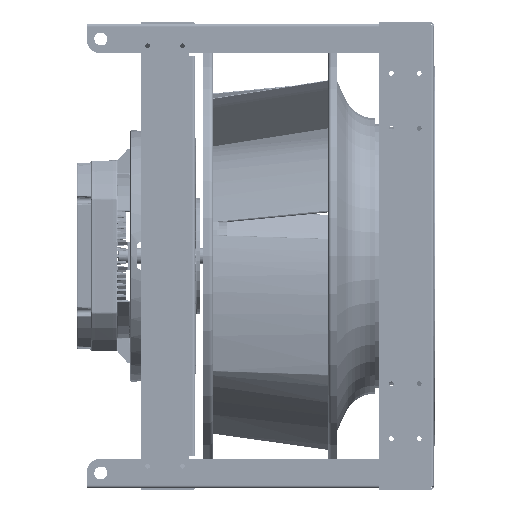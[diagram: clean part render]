
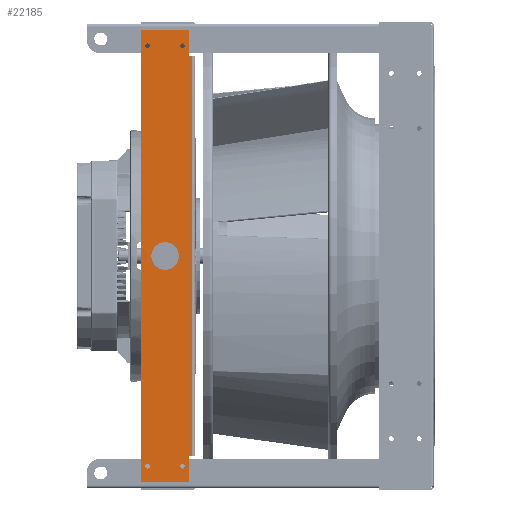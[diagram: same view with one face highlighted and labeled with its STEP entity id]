
A CAD part, left-side view. The second image highlights one B-rep face of the part: STEP entity #22185.
In plain terms, the highlighted planar face has unit normal (-1, 0, 0) as drawn and (0, 0, 1) by its records, which use the part's own axes.
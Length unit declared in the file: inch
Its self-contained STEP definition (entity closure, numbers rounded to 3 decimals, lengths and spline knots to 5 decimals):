
#691 = DIRECTION ( 'NONE',  ( 1., 0., 0. ) ) ;
#7400 = DIRECTION ( 'NONE',  ( -1., 0., 0. ) ) ;
#8733 = ORIENTED_EDGE ( 'NONE', *, *, #437535, .T. ) ;
#11995 = VERTEX_POINT ( 'NONE', #62626 ) ;
#14254 = ORIENTED_EDGE ( 'NONE', *, *, #176548, .T. ) ;
#14866 = VERTEX_POINT ( 'NONE', #392478 ) ;
#19085 = EDGE_LOOP ( 'NONE', ( #19889 ) ) ;
#19889 = ORIENTED_EDGE ( 'NONE', *, *, #295865, .F. ) ;
#20760 = EDGE_LOOP ( 'NONE', ( #362341 ) ) ;
#22185 = ADVANCED_FACE ( 'NONE', ( #128531, #301586, #130748, #90357, #94783, #267897 ), #56625, .F. ) ;
#23667 = DIRECTION ( 'NONE',  ( 1., 0., 0. ) ) ;
#25438 = ORIENTED_EDGE ( 'NONE', *, *, #311049, .T. ) ;
#36710 = DIRECTION ( 'NONE',  ( 0., 0., 1. ) ) ;
#47473 = VERTEX_POINT ( 'NONE', #387441 ) ;
#56625 = PLANE ( 'NONE',  #79024 ) ;
#62626 = CARTESIAN_POINT ( 'NONE',  ( 14.545, 1.77, 0.135 ) ) ;
#68829 = EDGE_CURVE ( 'NONE', #187546, #302272, #104119, .T. ) ;
#69198 = VECTOR ( 'NONE', #382490, 39.37008 ) ;
#71665 = CIRCLE ( 'NONE', #122085, 1. ) ;
#78075 = VECTOR ( 'NONE', #111496, 39.37008 ) ;
#79024 = AXIS2_PLACEMENT_3D ( 'NONE', #369010, #330811, #402754 ) ;
#80068 = DIRECTION ( 'NONE',  ( 0., 0., 1. ) ) ;
#86774 = EDGE_CURVE ( 'NONE', #161976, #161976, #71665, .T. ) ;
#90085 = CARTESIAN_POINT ( 'NONE',  ( 1., 0., 0.135 ) ) ;
#90357 = FACE_BOUND ( 'NONE', #20760, .T. ) ;
#94783 = FACE_BOUND ( 'NONE', #19085, .T. ) ;
#104119 = LINE ( 'NONE', #380561, #373730 ) ;
#106373 = CARTESIAN_POINT ( 'NONE',  ( 15.295, 1.27, 0.135 ) ) ;
#106545 = DIRECTION ( 'NONE',  ( -1., 0., 0. ) ) ;
#111496 = DIRECTION ( 'NONE',  ( -1., 0., 0. ) ) ;
#113831 = DIRECTION ( 'NONE',  ( -1., 0., 0. ) ) ;
#120922 = VECTOR ( 'NONE', #106545, 39.37008 ) ;
#122085 = AXIS2_PLACEMENT_3D ( 'NONE', #356497, #255365, #23667 ) ;
#128531 = FACE_BOUND ( 'NONE', #310717, .T. ) ;
#130525 = EDGE_CURVE ( 'NONE', #172466, #172466, #166865, .T. ) ;
#130748 = FACE_BOUND ( 'NONE', #191077, .T. ) ;
#134999 = VERTEX_POINT ( 'NONE', #214750 ) ;
#137872 = CARTESIAN_POINT ( 'NONE',  ( -16.455, -1.77, 0.135 ) ) ;
#140962 = VECTOR ( 'NONE', #322550, 39.37008 ) ;
#143464 = CARTESIAN_POINT ( 'NONE',  ( 16.455, -1.77, 0.135 ) ) ;
#146584 = VERTEX_POINT ( 'NONE', #388117 ) ;
#151558 = CARTESIAN_POINT ( 'NONE',  ( 15.295, -1.27, 0.135 ) ) ;
#161976 = VERTEX_POINT ( 'NONE', #90085 ) ;
#166520 = CARTESIAN_POINT ( 'NONE',  ( -14.545, 1.9775, 0.135 ) ) ;
#166865 = CIRCLE ( 'NONE', #310575, 0.172 ) ;
#171934 = VERTEX_POINT ( 'NONE', #421299 ) ;
#172343 = CARTESIAN_POINT ( 'NONE',  ( -15.295, 1.27, 0.135 ) ) ;
#172466 = VERTEX_POINT ( 'NONE', #370944 ) ;
#176548 = EDGE_CURVE ( 'NONE', #47473, #187546, #390009, .T. ) ;
#184461 = LINE ( 'NONE', #258555, #206197 ) ;
#185327 = DIRECTION ( 'NONE',  ( 0., 0., 1. ) ) ;
#186611 = CIRCLE ( 'NONE', #194032, 0.172 ) ;
#187546 = VERTEX_POINT ( 'NONE', #137872 ) ;
#190221 = EDGE_CURVE ( 'NONE', #243819, #225971, #344784, .T. ) ;
#191077 = EDGE_LOOP ( 'NONE', ( #194261 ) ) ;
#194032 = AXIS2_PLACEMENT_3D ( 'NONE', #151558, #185327, #221323 ) ;
#194261 = ORIENTED_EDGE ( 'NONE', *, *, #130525, .F. ) ;
#206197 = VECTOR ( 'NONE', #429365, 39.37008 ) ;
#208181 = ORIENTED_EDGE ( 'NONE', *, *, #190221, .T. ) ;
#210639 = CARTESIAN_POINT ( 'NONE',  ( -15.295, -1.27, 0.135 ) ) ;
#211763 = CARTESIAN_POINT ( 'NONE',  ( 16.455, -1.77, 0.135 ) ) ;
#214750 = CARTESIAN_POINT ( 'NONE',  ( -14.545, 1.77, 0.135 ) ) ;
#221156 = CIRCLE ( 'NONE', #278561, 0.172 ) ;
#221323 = DIRECTION ( 'NONE',  ( 1., 0., 0. ) ) ;
#222041 = VECTOR ( 'NONE', #272126, 39.37008 ) ;
#225971 = VERTEX_POINT ( 'NONE', #339745 ) ;
#235011 = EDGE_CURVE ( 'NONE', #243819, #11995, #184461, .T. ) ;
#237268 = CARTESIAN_POINT ( 'NONE',  ( 15.123, 1.27, 0.135 ) ) ;
#243819 = VERTEX_POINT ( 'NONE', #306089 ) ;
#244096 = LINE ( 'NONE', #311465, #332105 ) ;
#250844 = LINE ( 'NONE', #387889, #78075 ) ;
#252416 = ORIENTED_EDGE ( 'NONE', *, *, #68829, .T. ) ;
#253086 = ORIENTED_EDGE ( 'NONE', *, *, #319128, .T. ) ;
#255365 = DIRECTION ( 'NONE',  ( 0., 0., 1. ) ) ;
#256901 = CIRCLE ( 'NONE', #371727, 0.172 ) ;
#258555 = CARTESIAN_POINT ( 'NONE',  ( 14.545, 1.9775, 0.135 ) ) ;
#267897 = FACE_BOUND ( 'NONE', #374764, .T. ) ;
#272126 = DIRECTION ( 'NONE',  ( 0., -1., 0. ) ) ;
#275591 = DIRECTION ( 'NONE',  ( -1., 0., 0. ) ) ;
#278561 = AXIS2_PLACEMENT_3D ( 'NONE', #172343, #410631, #280214 ) ;
#280214 = DIRECTION ( 'NONE',  ( 1., 0., 0. ) ) ;
#294204 = ORIENTED_EDGE ( 'NONE', *, *, #359462, .F. ) ;
#295865 = EDGE_CURVE ( 'NONE', #14866, #14866, #186611, .T. ) ;
#301586 = FACE_OUTER_BOUND ( 'NONE', #396275, .T. ) ;
#302272 = VERTEX_POINT ( 'NONE', #143464 ) ;
#306089 = CARTESIAN_POINT ( 'NONE',  ( 14.545, 1.9775, 0.135 ) ) ;
#310575 = AXIS2_PLACEMENT_3D ( 'NONE', #210639, #80068, #113831 ) ;
#310717 = EDGE_LOOP ( 'NONE', ( #394732 ) ) ;
#311049 = EDGE_CURVE ( 'NONE', #146584, #11995, #244096, .T. ) ;
#311465 = CARTESIAN_POINT ( 'NONE',  ( -16.455, 1.77, 0.135 ) ) ;
#319128 = EDGE_CURVE ( 'NONE', #302272, #146584, #386907, .T. ) ;
#322550 = DIRECTION ( 'NONE',  ( 0., -1., 0. ) ) ;
#324748 = CARTESIAN_POINT ( 'NONE',  ( -16.455, -1.77, 0.135 ) ) ;
#326012 = EDGE_CURVE ( 'NONE', #134999, #47473, #250844, .T. ) ;
#330811 = DIRECTION ( 'NONE',  ( 0., 0., -1. ) ) ;
#332105 = VECTOR ( 'NONE', #275591, 39.37008 ) ;
#339745 = CARTESIAN_POINT ( 'NONE',  ( -14.545, 1.9775, 0.135 ) ) ;
#341867 = ORIENTED_EDGE ( 'NONE', *, *, #326012, .T. ) ;
#344784 = LINE ( 'NONE', #416744, #120922 ) ;
#356497 = CARTESIAN_POINT ( 'NONE',  ( 0., 0., 0.135 ) ) ;
#359462 = EDGE_CURVE ( 'NONE', #435135, #435135, #256901, .T. ) ;
#362341 = ORIENTED_EDGE ( 'NONE', *, *, #433852, .F. ) ;
#369010 = CARTESIAN_POINT ( 'NONE',  ( 0., 0., 0.135 ) ) ;
#370944 = CARTESIAN_POINT ( 'NONE',  ( -15.467, -1.27, 0.135 ) ) ;
#371727 = AXIS2_PLACEMENT_3D ( 'NONE', #106373, #36710, #7400 ) ;
#373233 = LINE ( 'NONE', #166520, #222041 ) ;
#373730 = VECTOR ( 'NONE', #691, 39.37008 ) ;
#374764 = EDGE_LOOP ( 'NONE', ( #294204 ) ) ;
#378651 = ORIENTED_EDGE ( 'NONE', *, *, #235011, .F. ) ;
#380561 = CARTESIAN_POINT ( 'NONE',  ( -16.455, -1.77, 0.135 ) ) ;
#382490 = DIRECTION ( 'NONE',  ( 0., 1., 0. ) ) ;
#386907 = LINE ( 'NONE', #211763, #69198 ) ;
#387441 = CARTESIAN_POINT ( 'NONE',  ( -16.455, 1.77, 0.135 ) ) ;
#387889 = CARTESIAN_POINT ( 'NONE',  ( -16.455, 1.77, 0.135 ) ) ;
#388117 = CARTESIAN_POINT ( 'NONE',  ( 16.455, 1.77, 0.135 ) ) ;
#390009 = LINE ( 'NONE', #324748, #140962 ) ;
#392478 = CARTESIAN_POINT ( 'NONE',  ( 15.467, -1.27, 0.135 ) ) ;
#394732 = ORIENTED_EDGE ( 'NONE', *, *, #86774, .F. ) ;
#396275 = EDGE_LOOP ( 'NONE', ( #14254, #252416, #253086, #25438, #378651, #208181, #8733, #341867 ) ) ;
#402754 = DIRECTION ( 'NONE',  ( -1., 0., 0. ) ) ;
#410631 = DIRECTION ( 'NONE',  ( 0., 0., 1. ) ) ;
#416744 = CARTESIAN_POINT ( 'NONE',  ( 14.545, 1.9775, 0.135 ) ) ;
#421299 = CARTESIAN_POINT ( 'NONE',  ( -15.123, 1.27, 0.135 ) ) ;
#429365 = DIRECTION ( 'NONE',  ( 0., -1., 0. ) ) ;
#433852 = EDGE_CURVE ( 'NONE', #171934, #171934, #221156, .T. ) ;
#435135 = VERTEX_POINT ( 'NONE', #237268 ) ;
#437535 = EDGE_CURVE ( 'NONE', #225971, #134999, #373233, .T. ) ;
